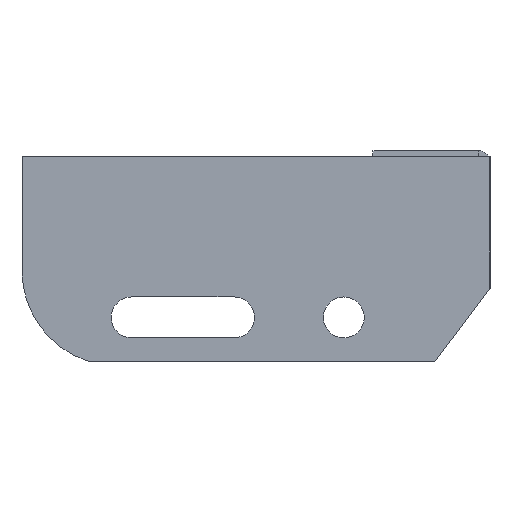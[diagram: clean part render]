
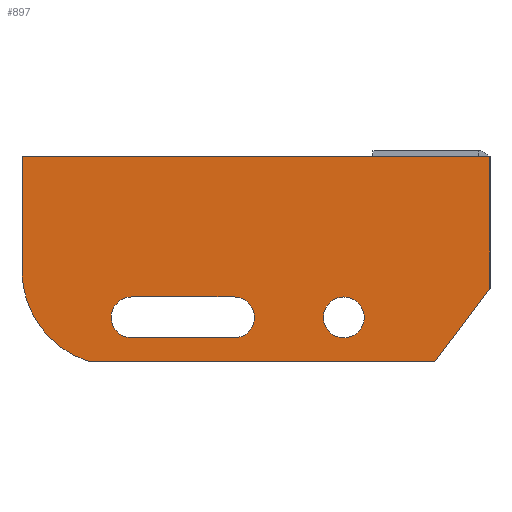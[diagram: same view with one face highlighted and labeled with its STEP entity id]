
A CAD part, left-side view. The second image highlights one B-rep face of the part: STEP entity #897.
In plain terms, the highlighted planar face has unit normal (-1, 0, 0) as drawn and (0, 0, 1) by its records, which use the part's own axes.
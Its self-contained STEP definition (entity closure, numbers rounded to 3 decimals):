
#9 = DIRECTION ( 'NONE',  ( 0., 0., 1. ) ) ;
#23 = DIRECTION ( 'NONE',  ( 0., 0., 1. ) ) ;
#32 = ORIENTED_EDGE ( 'NONE', *, *, #1252, .F. ) ;
#34 = CARTESIAN_POINT ( 'NONE',  ( -160., 0., 3. ) ) ;
#67 = VERTEX_POINT ( 'NONE', #2012 ) ;
#88 = PLANE ( 'NONE',  #406 ) ;
#110 = VERTEX_POINT ( 'NONE', #287 ) ;
#113 = DIRECTION ( 'NONE',  ( 0.602, 0.799, 0. ) ) ;
#125 = CARTESIAN_POINT ( 'NONE',  ( -160., -39., 3. ) ) ;
#155 = VECTOR ( 'NONE', #981, 1000. ) ;
#179 = CIRCLE ( 'NONE', #439, 7. ) ;
#182 = EDGE_CURVE ( 'NONE', #1335, #1639, #1124, .T. ) ;
#186 = VERTEX_POINT ( 'NONE', #1313 ) ;
#194 = ORIENTED_EDGE ( 'NONE', *, *, #857, .T. ) ;
#210 = AXIS2_PLACEMENT_3D ( 'NONE', #1561, #1712, #285 ) ;
#232 = DIRECTION ( 'NONE',  ( 1., 0., 0. ) ) ;
#285 = DIRECTION ( 'NONE',  ( 1., 0., 0. ) ) ;
#287 = CARTESIAN_POINT ( 'NONE',  ( -87.5, -48., 3. ) ) ;
#289 = DIRECTION ( 'NONE',  ( 1., 0., 0. ) ) ;
#336 = CARTESIAN_POINT ( 'NONE',  ( -122.5, -62., 3. ) ) ;
#341 = CIRCLE ( 'NONE', #1306, 7. ) ;
#352 = CARTESIAN_POINT ( 'NONE',  ( -137.26, -70., 3. ) ) ;
#403 = FACE_BOUND ( 'NONE', #924, .T. ) ;
#406 = AXIS2_PLACEMENT_3D ( 'NONE', #1814, #846, #232 ) ;
#413 = CARTESIAN_POINT ( 'NONE',  ( 0., 0., 3. ) ) ;
#422 = EDGE_LOOP ( 'NONE', ( #1839, #32 ) ) ;
#425 = CARTESIAN_POINT ( 'NONE',  ( 0., -45., 3. ) ) ;
#436 = VECTOR ( 'NONE', #605, 1000. ) ;
#439 = AXIS2_PLACEMENT_3D ( 'NONE', #1875, #1061, #748 ) ;
#443 = CARTESIAN_POINT ( 'NONE',  ( -122.5, -55., 3. ) ) ;
#444 = ORIENTED_EDGE ( 'NONE', *, *, #1114, .T. ) ;
#465 = CARTESIAN_POINT ( 'NONE',  ( 0., 0., 3. ) ) ;
#466 = CARTESIAN_POINT ( 'NONE',  ( -127.5, -39., 3. ) ) ;
#473 = VERTEX_POINT ( 'NONE', #1064 ) ;
#479 = DIRECTION ( 'NONE',  ( 0., -1., 0. ) ) ;
#493 = ORIENTED_EDGE ( 'NONE', *, *, #1160, .F. ) ;
#506 = CIRCLE ( 'NONE', #1143, 32.5 ) ;
#512 = FACE_OUTER_BOUND ( 'NONE', #1781, .T. ) ;
#527 = VERTEX_POINT ( 'NONE', #1848 ) ;
#605 = DIRECTION ( 'NONE',  ( 1., 0., 0. ) ) ;
#638 = CARTESIAN_POINT ( 'NONE',  ( -57., -55., 3. ) ) ;
#647 = DIRECTION ( 'NONE',  ( 0., 0., 1. ) ) ;
#655 = VECTOR ( 'NONE', #479, 1000. ) ;
#657 = DIRECTION ( 'NONE',  ( 1., 0., 0. ) ) ;
#702 = CARTESIAN_POINT ( 'NONE',  ( -122.5, -62., 3. ) ) ;
#710 = AXIS2_PLACEMENT_3D ( 'NONE', #1429, #9, #657 ) ;
#718 = VERTEX_POINT ( 'NONE', #352 ) ;
#727 = DIRECTION ( 'NONE',  ( -1., 0., 0. ) ) ;
#748 = DIRECTION ( 'NONE',  ( 1., 0., 0. ) ) ;
#750 = CIRCLE ( 'NONE', #1272, 7. ) ;
#793 = VERTEX_POINT ( 'NONE', #638 ) ;
#797 = EDGE_CURVE ( 'NONE', #793, #473, #1409, .T. ) ;
#846 = DIRECTION ( 'NONE',  ( 0., 0., 1. ) ) ;
#857 = EDGE_CURVE ( 'NONE', #67, #1192, #1916, .T. ) ;
#862 = DIRECTION ( 'NONE',  ( 1., 0., 0. ) ) ;
#897 = ADVANCED_FACE ( 'NONE', ( #512, #998, #403 ), #88, .T. ) ;
#904 = LINE ( 'NONE', #425, #1048 ) ;
#924 = EDGE_LOOP ( 'NONE', ( #1307, #1996, #1371, #1240, #493 ) ) ;
#930 = EDGE_CURVE ( 'NONE', #186, #1890, #1177, .T. ) ;
#967 = CARTESIAN_POINT ( 'NONE',  ( -18.839, -70., 3. ) ) ;
#981 = DIRECTION ( 'NONE',  ( 1., 0., 0. ) ) ;
#998 = FACE_BOUND ( 'NONE', #422, .T. ) ;
#1032 = DIRECTION ( 'NONE',  ( -1., 0., 0. ) ) ;
#1048 = VECTOR ( 'NONE', #113, 1000. ) ;
#1061 = DIRECTION ( 'NONE',  ( 0., 0., 1. ) ) ;
#1063 = EDGE_CURVE ( 'NONE', #527, #1600, #179, .T. ) ;
#1064 = CARTESIAN_POINT ( 'NONE',  ( -43., -55., 3. ) ) ;
#1088 = DIRECTION ( 'NONE',  ( 0., 0., 1. ) ) ;
#1097 = ORIENTED_EDGE ( 'NONE', *, *, #930, .T. ) ;
#1114 = EDGE_CURVE ( 'NONE', #1872, #186, #904, .T. ) ;
#1124 = LINE ( 'NONE', #336, #155 ) ;
#1133 = ORIENTED_EDGE ( 'NONE', *, *, #1617, .T. ) ;
#1143 = AXIS2_PLACEMENT_3D ( 'NONE', #466, #23, #1295 ) ;
#1160 = EDGE_CURVE ( 'NONE', #1639, #110, #1569, .T. ) ;
#1177 = LINE ( 'NONE', #413, #1278 ) ;
#1192 = VERTEX_POINT ( 'NONE', #125 ) ;
#1240 = ORIENTED_EDGE ( 'NONE', *, *, #1496, .F. ) ;
#1252 = EDGE_CURVE ( 'NONE', #473, #793, #341, .T. ) ;
#1272 = AXIS2_PLACEMENT_3D ( 'NONE', #443, #1088, #289 ) ;
#1278 = VECTOR ( 'NONE', #1826, 1000. ) ;
#1295 = DIRECTION ( 'NONE',  ( 1., 0., 0. ) ) ;
#1306 = AXIS2_PLACEMENT_3D ( 'NONE', #1408, #647, #862 ) ;
#1307 = ORIENTED_EDGE ( 'NONE', *, *, #182, .F. ) ;
#1313 = CARTESIAN_POINT ( 'NONE',  ( 0., -45., 3. ) ) ;
#1335 = VERTEX_POINT ( 'NONE', #702 ) ;
#1359 = CARTESIAN_POINT ( 'NONE',  ( -87.5, -62., 3. ) ) ;
#1371 = ORIENTED_EDGE ( 'NONE', *, *, #1063, .F. ) ;
#1401 = EDGE_CURVE ( 'NONE', #1192, #718, #506, .T. ) ;
#1408 = CARTESIAN_POINT ( 'NONE',  ( -50., -55., 3. ) ) ;
#1409 = CIRCLE ( 'NONE', #710, 7. ) ;
#1429 = CARTESIAN_POINT ( 'NONE',  ( -50., -55., 3. ) ) ;
#1496 = EDGE_CURVE ( 'NONE', #110, #527, #1534, .T. ) ;
#1502 = CARTESIAN_POINT ( 'NONE',  ( -122.5, -48., 3. ) ) ;
#1534 = LINE ( 'NONE', #1502, #1942 ) ;
#1561 = CARTESIAN_POINT ( 'NONE',  ( -87.5, -55., 3. ) ) ;
#1569 = CIRCLE ( 'NONE', #210, 7. ) ;
#1600 = VERTEX_POINT ( 'NONE', #1985 ) ;
#1617 = EDGE_CURVE ( 'NONE', #1890, #67, #1801, .T. ) ;
#1639 = VERTEX_POINT ( 'NONE', #1359 ) ;
#1669 = EDGE_CURVE ( 'NONE', #718, #1872, #1852, .T. ) ;
#1673 = ORIENTED_EDGE ( 'NONE', *, *, #1669, .T. ) ;
#1683 = EDGE_CURVE ( 'NONE', #1600, #1335, #750, .T. ) ;
#1706 = CARTESIAN_POINT ( 'NONE',  ( -18.839, -70., 3. ) ) ;
#1712 = DIRECTION ( 'NONE',  ( 0., 0., 1. ) ) ;
#1730 = VECTOR ( 'NONE', #1032, 1000. ) ;
#1781 = EDGE_LOOP ( 'NONE', ( #1097, #1133, #194, #1962, #1673, #444 ) ) ;
#1801 = LINE ( 'NONE', #1948, #1730 ) ;
#1814 = CARTESIAN_POINT ( 'NONE',  ( -127.5, -39., 3. ) ) ;
#1826 = DIRECTION ( 'NONE',  ( 0., 1., 0. ) ) ;
#1839 = ORIENTED_EDGE ( 'NONE', *, *, #797, .F. ) ;
#1848 = CARTESIAN_POINT ( 'NONE',  ( -122.5, -48., 3. ) ) ;
#1852 = LINE ( 'NONE', #1706, #436 ) ;
#1872 = VERTEX_POINT ( 'NONE', #967 ) ;
#1875 = CARTESIAN_POINT ( 'NONE',  ( -122.5, -55., 3. ) ) ;
#1890 = VERTEX_POINT ( 'NONE', #465 ) ;
#1916 = LINE ( 'NONE', #34, #655 ) ;
#1942 = VECTOR ( 'NONE', #727, 1000. ) ;
#1948 = CARTESIAN_POINT ( 'NONE',  ( 0., 0., 3. ) ) ;
#1962 = ORIENTED_EDGE ( 'NONE', *, *, #1401, .T. ) ;
#1985 = CARTESIAN_POINT ( 'NONE',  ( -129.5, -55., 3. ) ) ;
#1996 = ORIENTED_EDGE ( 'NONE', *, *, #1683, .F. ) ;
#2012 = CARTESIAN_POINT ( 'NONE',  ( -160., 0., 3. ) ) ;
